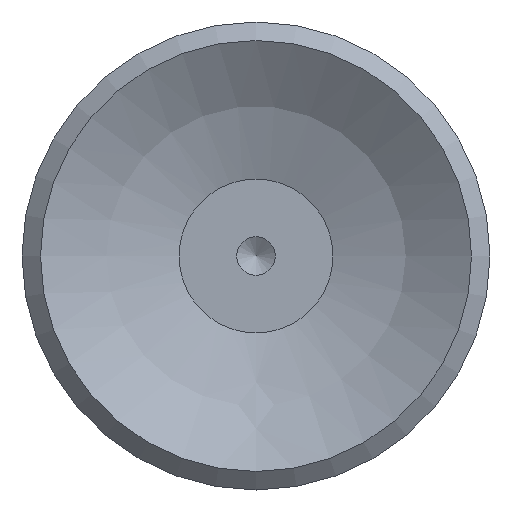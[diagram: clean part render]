
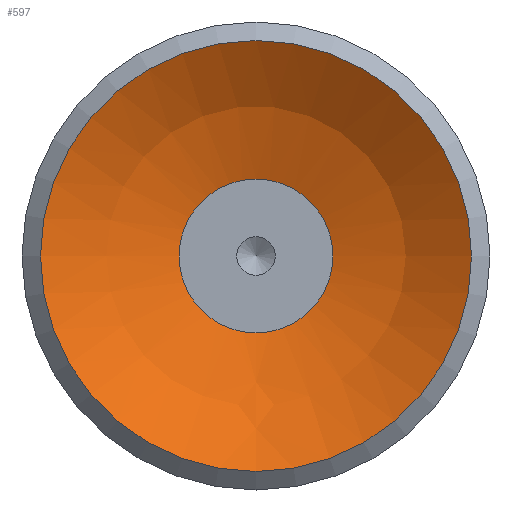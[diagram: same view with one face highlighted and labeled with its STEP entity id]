
A CAD part, front view. The second image highlights one B-rep face of the part: STEP entity #597.
In plain terms, the highlighted spherical face has radius 11.5 mm.
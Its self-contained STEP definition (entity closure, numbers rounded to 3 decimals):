
#597=ADVANCED_FACE('',(#1003,#1004),#1005,.F.);
#1003=FACE_OUTER_BOUND('',#1496,.T.);
#1004=FACE_OUTER_BOUND('',#1497,.T.);
#1005=SPHERICAL_SURFACE('',#1498,11.5);
#1496=EDGE_LOOP('',(#2652));
#1497=EDGE_LOOP('',(#2653));
#1498=AXIS2_PLACEMENT_3D('',#2654,#2655,#2656);
#2652=ORIENTED_EDGE('',*,*,#3428,.T.);
#2653=ORIENTED_EDGE('',*,*,#3399,.F.);
#2654=CARTESIAN_POINT('',(0.001,9.494,-22.735));
#2655=DIRECTION('',(0.0,0.,-1.0));
#2656=DIRECTION('',(1.0,0.0,0.0));
#3399=EDGE_CURVE('',#4034,#4034,#4035,.T.);
#3428=EDGE_CURVE('',#4087,#4087,#4088,.T.);
#4034=VERTEX_POINT('',#5799);
#4035=CIRCLE('',#5800,2.5);
#4087=VERTEX_POINT('',#5852);
#4088=CIRCLE('',#5853,7.0);
#5799=CARTESIAN_POINT('',(0.001,11.994,-11.51));
#5800=AXIS2_PLACEMENT_3D('',#6397,#6398,#6399);
#5852=CARTESIAN_POINT('',(0.001,16.494,-13.611));
#5853=AXIS2_PLACEMENT_3D('',#6484,#6485,#6486);
#6397=CARTESIAN_POINT('',(0.001,9.494,-11.51));
#6398=DIRECTION('',(0.0,0.,-1.0));
#6399=DIRECTION('',(0.0,1.0,0.));
#6484=CARTESIAN_POINT('',(0.001,9.494,-13.611));
#6485=DIRECTION('',(0.0,0.,-1.0));
#6486=DIRECTION('',(0.0,1.0,0.));
